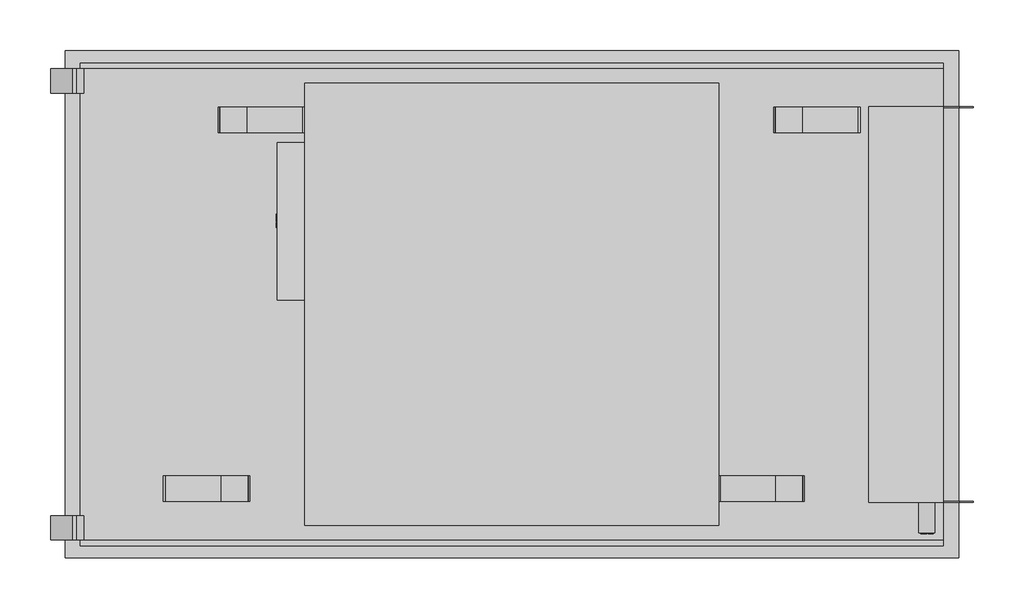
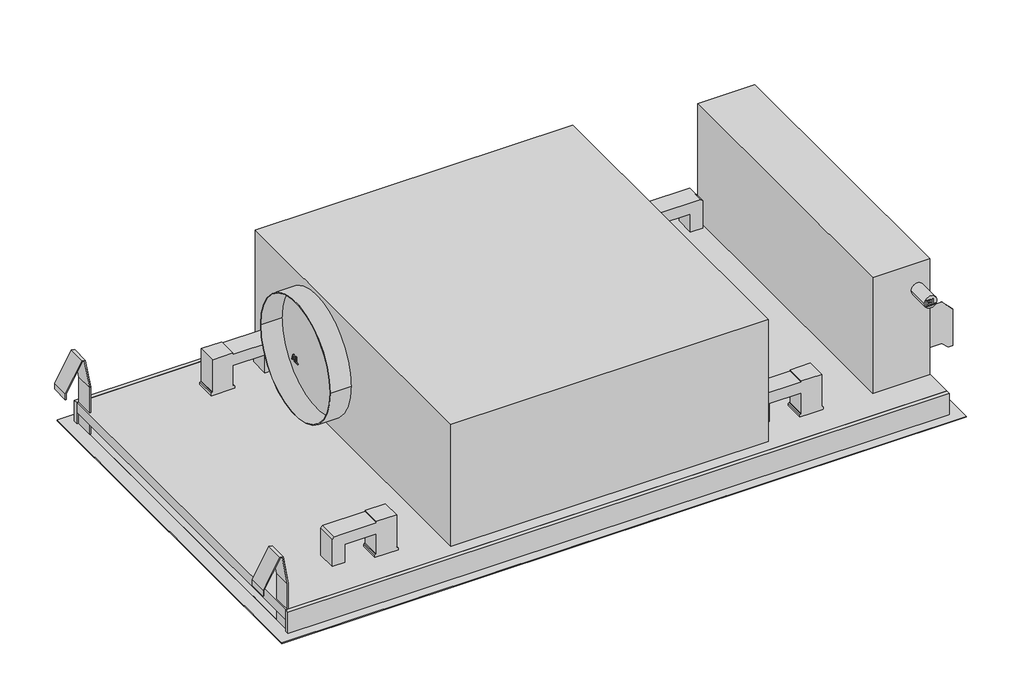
# Not in any storey: 1 proxy.
"""IFC4 building model written with IfcOpenShell, lengths in millimetres."""

from ifc_helpers import new_model, si_unit, origin, place, context, project, spatial, transform, mapped, element, save
from components import specialty_equipment_e1496326

model = new_model("IFC4")

# Units and contexts
model_context = context("Model", 3, world=origin())
ifc_project = project(units=[si_unit("LENGTHUNIT", "METRE", prefix="MILLI")], contexts=[model_context])

# Site, building
site = spatial("IfcSite", under=ifc_project)
building = spatial("IfcBuilding", under=site)

# Proxy
placement = place(None, origin())
specialty_equipment_shape = specialty_equipment_e1496326(model_context)
element("IfcBuildingElementProxy", 1, Name="12549640_D_DAC4943EXTA_EDST : 28C4943S_D_12549640_DAC4943EXTA_EDST", ObjectType="12549640_D_DAC4943EXTA_EDST : 28C4943S_D_12549640_DAC4943EXTA_EDST", at=placement, inside=building, context=model_context, shape_type="MappedRepresentation", body=[
    mapped(specialty_equipment_shape, transform((0.0, 0.0, 0.0), x_axis=(1.0, 0.0, 0.0), y_axis=(0.0, 1.0, 0.0), z_axis=(0.0, 0.0, 1.0))),
])

save(model, "model.ifc")
